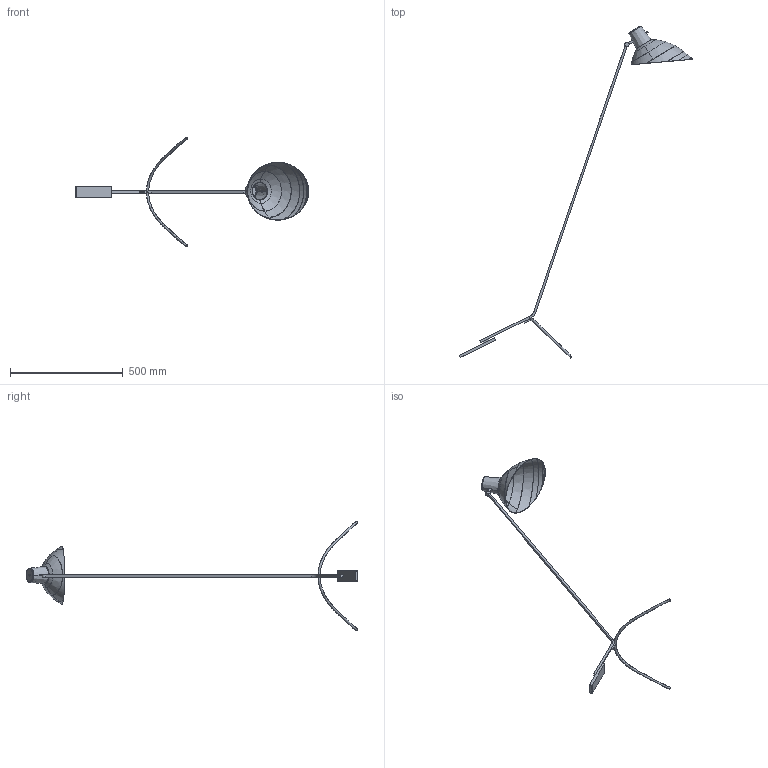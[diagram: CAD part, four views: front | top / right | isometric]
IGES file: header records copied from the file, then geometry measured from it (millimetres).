
Global section: file name: /Users/nicholas/Google Drive/astep/PR & Marketing /CAD Public/VV Cinquanta Floor/VV Cinquanta Floor CAD.igs; preprocessor: Trout Lake IGES 012 Jul 15 2015; date: 170609.111517; units: millimetre
Bounding box: 1035.71 x 1472.57 x 487.49 mm (x, y, z)
Surface area: 289987.4 mm2 (no closed solid volume)
Topology: 0 solids, 0 shells, 94 faces, 1065 edges, 1062 vertices
Faces by surface type: bspline 94
